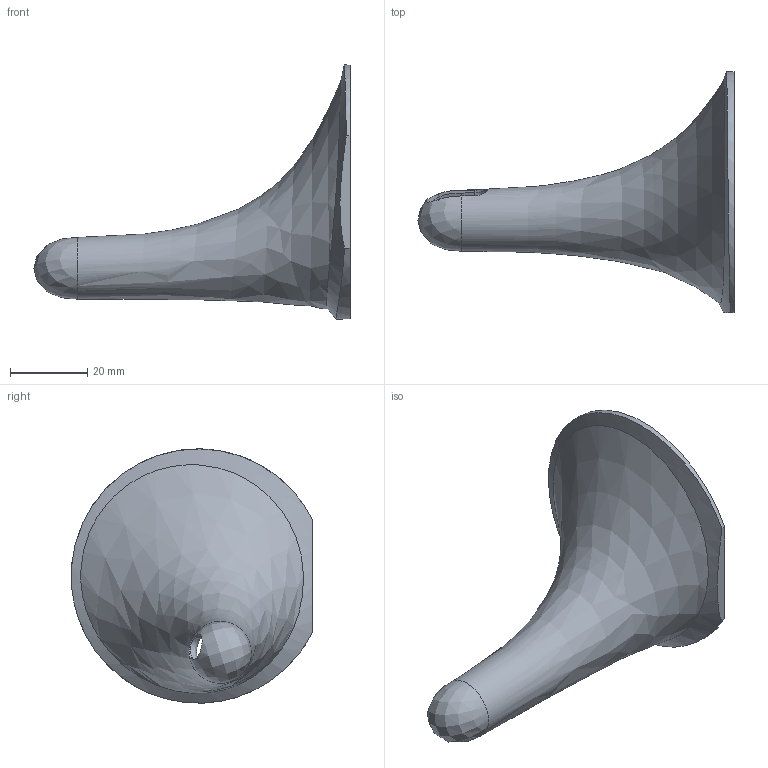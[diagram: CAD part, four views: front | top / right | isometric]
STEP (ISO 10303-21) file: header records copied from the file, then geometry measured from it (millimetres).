
FILE_DESCRIPTION (( 'STEP AP214' ), '1' );
FILE_NAME ('Horn - Left.STEP', '2015-03-13T18:49:45', ( '' ), ( '' ), 'SwSTEP 2.0', 'SolidWorks 2015', '' );
FILE_SCHEMA (( 'AUTOMOTIVE_DESIGN' ));
Length unit declared in the file: millimetre
Products named in the file (1): Horn - Left
Bounding box: 82 x 62.52 x 65.98 mm (x, y, z)
Volume: 16907.9 mm3; surface area: 14938.5 mm2
Topology: 1 solids, 1 shells, 18 faces, 49 edges, 32 vertices
Faces by surface type: bspline 11, plane 4, cylinder 3
Entity records: 9114 total; most frequent: CARTESIAN_POINT 8766, ORIENTED_EDGE 84, EDGE_CURVE 42, B_SPLINE_CURVE_WITH_KNOTS 29, VERTEX_POINT 28, DIRECTION 27, EDGE_LOOP 22, FACE_OUTER_BOUND 21
